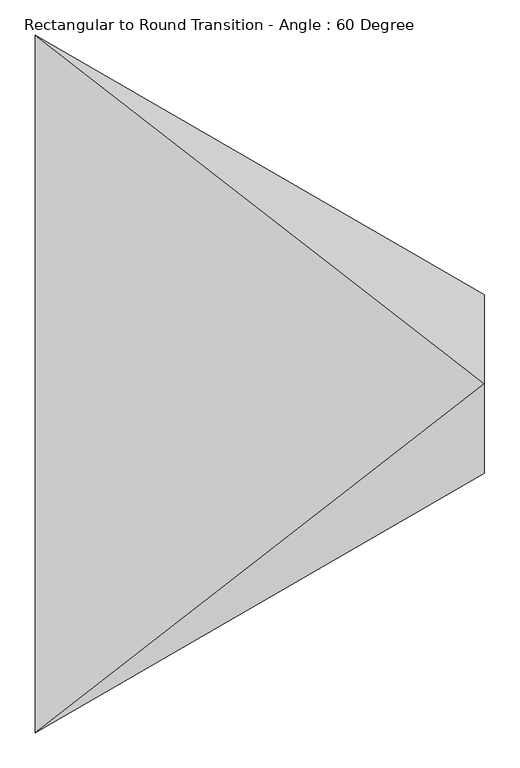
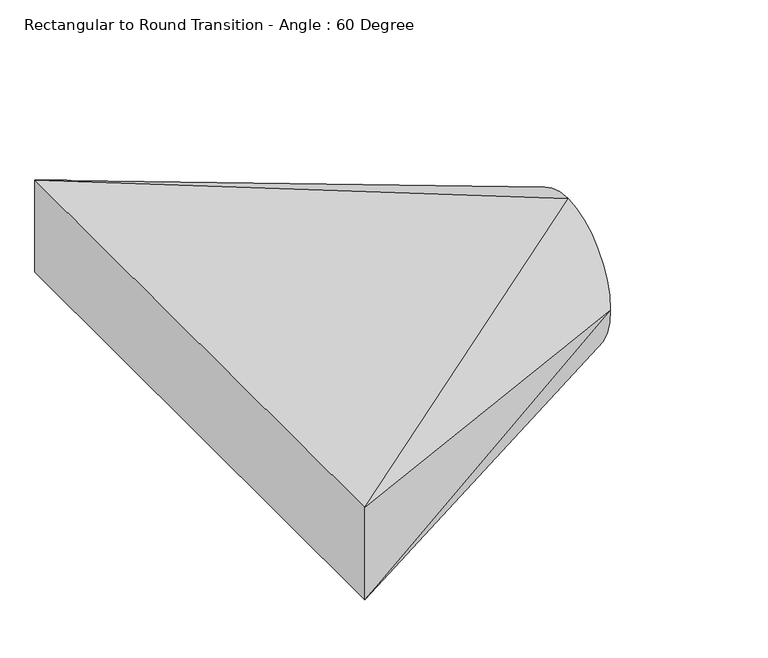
"""IFC4 building model written with IfcOpenShell, lengths in millimetres: duct fitting geometry, Rectangular to Round Transition - Angle : 60 Degree."""

from ifc_helpers import new_model, si_unit, frame, origin, place, context, project, spatial, circle_curve, source, transform, mapped, element, save
from ifc_brep_helpers import plane_surface, spline_surface, advanced_brep


def rectangular_to_round_transition_angle_60_degree_fd6f6933(model_context):
    return source(origin(), model_context, "Body", "AdvancedBrep", [
        advanced_brep(
        [(637.9143124, 0.0, 127.0092562), (637.9143124, -127.0, 0.0092562), (637.9143124, 0.0, -126.9907438), (637.9143124, 127.0, 0.0092562), (0.0, -495.3, 84.5), (0.0, 495.3, 84.5), (0.0, 495.3, -84.5), (0.0, -495.3, -84.5)],
        [
            (0, 1, circle_curve(frame((637.9143124, 0.0, 0.0092562), z_axis=(1.0, 0.0, 0.0), x_axis=(0.0, 1.0, 0.0)), 127.0)),
            (1, 2, circle_curve(frame((637.9143124, 0.0, 0.0092562), z_axis=(1.0, 0.0, 0.0), x_axis=(0.0, 1.0, 0.0)), 127.0)),
            (2, 3, circle_curve(frame((637.9143124, 0.0, 0.0092562), z_axis=(1.0, 0.0, 0.0), x_axis=(0.0, 1.0, 0.0)), 127.0)),
            (3, 0, circle_curve(frame((637.9143124, 0.0, 0.0092562), z_axis=(1.0, 0.0, 0.0), x_axis=(0.0, 1.0, 0.0)), 127.0)),
            (4, 5),
            (5, 6),
            (6, 7),
            (7, 4),
            (0, 4),
            (4, 1),
            (7, 1),
            (7, 2),
            (6, 2),
            (6, 3),
            (5, 3),
            (5, 0),
        ],
        [
            plane_surface(frame((637.9143124, 0.0, 0.0092562), z_axis=(1.0, 0.0, 0.0), x_axis=(0.0, 0.0, -1.0))),
            plane_surface(frame((0.0, 0.0, 0.0), z_axis=(-1.0, 0.0, 0.0), x_axis=(0.0, 0.0, -1.0))),
            spline_surface(2, 1, [[(0.0, -495.3, 84.5), (637.9143124, 0.0, 127.0092562)], [(0.0, -495.3, 84.5), (637.9143124, -127.0, 127.0092562)], [(0.0, -495.3, 84.5), (637.9143124, -127.0, 0.0092562)]], [3, 3], [2, 2], [0.0, 1.0], [0.0, 1.0], weights=[[1.0, 1.0], [0.7071067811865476, 0.7071067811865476], [1.0, 1.0]]),
            plane_surface(frame((0.0, -495.3, 0.0), z_axis=(0.5000000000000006, -0.8660254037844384, 0.0), x_axis=(0.0, 0.0, -1.0))),
            spline_surface(2, 1, [[(0.0, -495.3, -84.5), (637.9143124, -127.0, 0.0092562)], [(0.0, -495.3, -84.5), (637.9143124, -127.0, -126.9907438)], [(0.0, -495.3, -84.5), (637.9143124, 0.0, -126.9907438)]], [3, 3], [2, 2], [0.0, 1.0], [0.0, 1.0], weights=[[1.0, 1.0], [0.7071067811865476, 0.7071067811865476], [1.0, 1.0]]),
            plane_surface(frame((0.0, 0.0, -84.5), z_axis=(-0.0664615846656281, 0.0, -0.9977889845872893), x_axis=(0.0, 1.0, 0.0))),
            spline_surface(2, 1, [[(0.0, 495.3, -84.5), (637.9143124, 0.0, -126.9907438)], [(0.0, 495.3, -84.5), (637.9143124, 127.0, -126.9907438)], [(0.0, 495.3, -84.5), (637.9143124, 127.0, 0.0092562)]], [3, 3], [2, 2], [0.0, 1.0], [0.0, 1.0], weights=[[1.0, 1.0], [0.7071067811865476, 0.7071067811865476], [1.0, 1.0]]),
            plane_surface(frame((0.0, 495.3, 0.0), z_axis=(0.4999999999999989, 0.8660254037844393, 0.0), x_axis=(0.0, 0.0, 1.0))),
            spline_surface(2, 1, [[(0.0, 495.3, 84.5), (637.9143124, 127.0, 0.0092562)], [(0.0, 495.3, 84.5), (637.9143124, 127.0, 127.0092562)], [(0.0, 495.3, 84.5), (637.9143124, 0.0, 127.0092562)]], [3, 3], [2, 2], [0.0, 1.0], [0.0, 1.0], weights=[[1.0, 1.0], [0.7071067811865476, 0.7071067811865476], [1.0, 1.0]]),
            plane_surface(frame((0.0, 0.0, 84.5), z_axis=(-0.06649041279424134, 0.0, 0.9977870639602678), x_axis=(0.0, -1.0, 0.0))),
        ],
        [
            (0, [[1, 2, 3, 4]]),
            (1, [[5, 6, 7, 8]]),
            (2, [[-1, 9, 10]]),
            (3, [[-8, 11, -10]]),
            (4, [[-2, -11, 12]]),
            (5, [[-7, 13, -12]]),
            (6, [[-3, -13, 14]]),
            (7, [[-6, 15, -14]]),
            (8, [[-4, -15, 16]]),
            (9, [[-5, -9, -16]]),
        ],
    ),
    ])


if __name__ == "__main__":
    model = new_model("IFC4")
    model_context = context("Model", 3, world=origin())
    ifc_project = project(units=[si_unit("LENGTHUNIT", "METRE", prefix="MILLI")], contexts=[model_context])
    site = spatial("IfcSite", under=ifc_project)
    building = spatial("IfcBuilding", under=site)
    placement = place(None, origin())
    rectangular_to_round_transition_angle_60_degree_shape = rectangular_to_round_transition_angle_60_degree_fd6f6933(model_context)
    element("IfcDuctFitting", 1, ObjectType="Rectangular to Round Transition - Angle : 60 Degree", at=placement, inside=building, context=model_context, shape_type="MappedRepresentation", body=[
        mapped(rectangular_to_round_transition_angle_60_degree_shape, transform((0.0, 0.0, 0.0), x_axis=(1.0, 0.0, 0.0), y_axis=(0.0, 1.0, 0.0), z_axis=(0.0, 0.0, 1.0))),
    ])
    save(model, "model.ifc")
